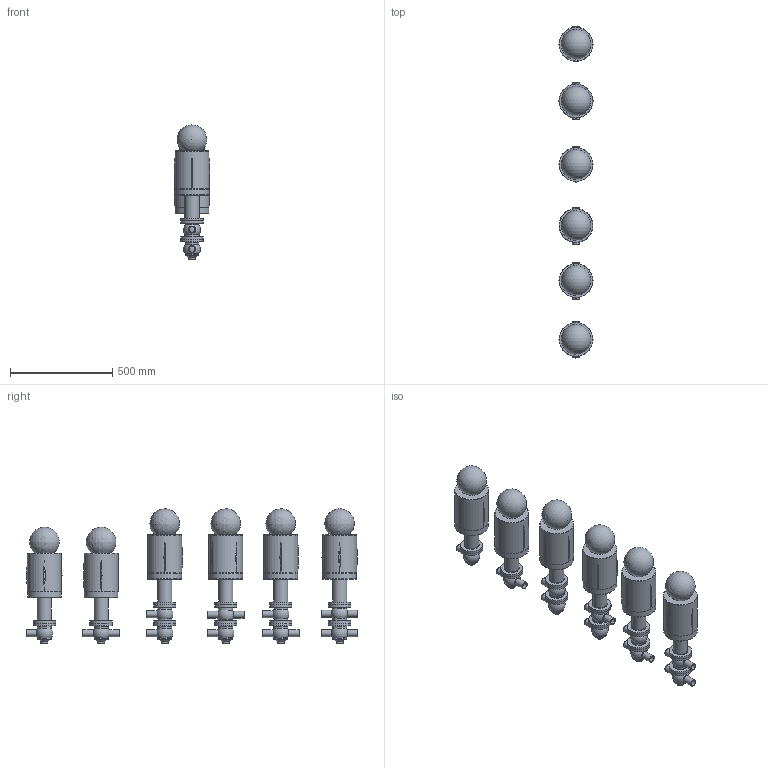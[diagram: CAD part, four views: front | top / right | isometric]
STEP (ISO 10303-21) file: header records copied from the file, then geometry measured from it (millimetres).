
FILE_DESCRIPTION(/* description */ (''),/* implementation_level */ '2;1');
FILE_NAME(/* name */ 'C:\Users\marz-m\Desktop\PDF\BBZQ 3D STEP\BBZQ-DN32-CIL.156.stp',/* time_stamp */ '2018-04-13T14:41:52+02:00',/* author */ ('marz-m'),/* organization */ (''),/* preprocessor_version */ 'ST-DEVELOPER v17',/* originating_system */ 'Autodesk Inventor 2018',/* authorisation */ '');
FILE_SCHEMA (('AUTOMOTIVE_DESIGN { 1 0 10303 214 3 1 1 }'));
Length unit declared in the file: millimetre
Products named in the file (8): BBZQ-CIL.156-DN32; COR-INF-L-BBZQ-DN34X2.5-SALD; COR-INF-T-BBZQ-DN34X2.5-SALD; assemblaggio dn40 per cil 108-156; CIL156; SAGOMA-GIOTTO-; CORPO-SUP-INF-BBZQ-L-DN34X2.5-SALD; CORPO-SUP-SUP-BBZQ-T-DN34X2.5-SALD
Assembly tree (28 placements, depth 2):
  BBZQ-CIL.156-DN32
    COR-INF-L-BBZQ-DN34X2.5-SALD  x3
    COR-INF-T-BBZQ-DN34X2.5-SALD  x3
    assemblaggio dn40 per cil 108-156  x6
    CIL156  x6
    SAGOMA-GIOTTO-  x6
    CORPO-SUP-INF-BBZQ-L-DN34X2.5-SALD  x2
    CORPO-SUP-SUP-BBZQ-T-DN34X2.5-SALD  x2
Bounding box: 172.04 x 1623.3 x 655.97 mm (x, y, z)
Volume: 45316200.9 mm3; surface area: 2250641.8 mm2
Topology: 28 solids, 28 shells, 386 faces, 924 edges, 680 vertices
Faces by surface type: cylinder 112, plane 109, cone 72, torus 38, sphere 31, bspline 24
Full cylindrical faces by diameter (mm): 20 x12, 29 x21, 34 x21, 68 x20, 69 x6, 109 x20, 164.5 x6, 166 x6
Entity records: 3939 total; most frequent: CARTESIAN_POINT 877, DIRECTION 680, ORIENTED_EDGE 496, AXIS2_PLACEMENT_3D 319, EDGE_CURVE 248, VERTEX_POINT 184, CIRCLE 180, EDGE_LOOP 136
